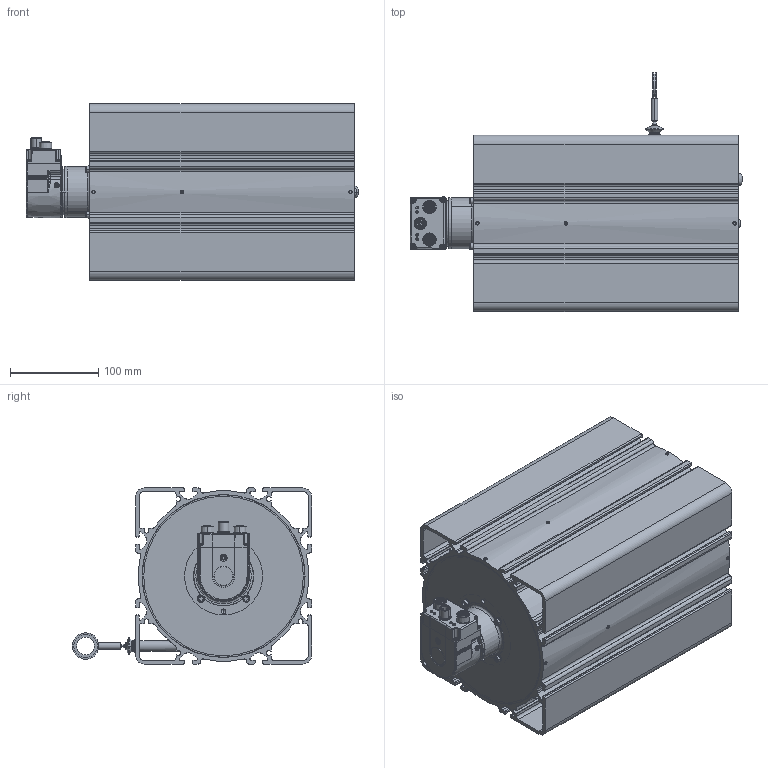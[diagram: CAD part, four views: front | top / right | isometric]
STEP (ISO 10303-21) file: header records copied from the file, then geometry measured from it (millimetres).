
FILE_DESCRIPTION((''),'2;1');
FILE_NAME('WDS-40000-P200-BH-PN_02_ASM','2024-05-28T13:37:20',('15000597'),(''),'CREO PARAMETRIC BY PTC INC, 2022164','CREO PARAMETRIC BY PTC INC, 2022164','');
FILE_SCHEMA(('AUTOMOTIVE_DESIGN { 1 0 10303 214 1 1 1 1 }'));
Products named in the file (34): TELESO_SENZORU_40M_P200_AF0; HRIDEL_MOTORU_30-40M_P200_AF0; BOCNICE_VNEJSI_P200_AF0; LOZISKO_6000_10X26X8_AF1; PREDNI_STENA_P200_DIRA_S_POJIST_AF0; SROUB_ISO7380_COC_HEX_C_M5X10_AF0; TRUBKA_PRUCHODKY_P200_AF0; PRUCHODKA_P200; GUMOVY_VLNOVEC; STIRATKO_LANKO_FORMA_0I8; DUTY_NYT_A_3X10; GP_7I5X2I0X25_EXT_EPDM60; LANKO_7X7_0I63_0I8_AF0; OKO_LANKA_TRE; CU_HULSE_2X1I4X5_AF0; SPOJKA_GS5_PR6_2I1_AF0; KOLIK_PRUZNY_2X8_AF0; SROUB_ISO4026_STAV_HEX_M4X4; PRIRUBA_SYNCHRO_P96_P200_AF0; PODLOZKA_M4_VEJIROVA_AF1; PODLOZKA_M4_VEJIROVA_AF3; PODLOZKA_M4_VEJIROVA_AF4; PODLOZKA_M4_VEJIROVA_AF5; PODLOZKA_M4_VEJIROVA_AF6; SROUB_ISO4762_VALC_HEX_M4X6_AF0; SROUB_ISO4762_VALC_HEX_M4X6_AF1; SROUB_ISO4762_VALC_HEX_M4X6_AF2; SROUB_ISO4762_VALC_HEX_M4X6_AF3; SPOJKA_KRIZ_AF0; SPOJKA_GS5_PR6_AF0; SROUB_ISO4029_STAV_HEX_M3X3_AF0; SROUB_ISO7380_COC_HEX_M8X8_AF0; BAU_SYNCHRO_PN_EAL580-SV6I4WPT_AF0; WDS-40000-P200-BH-PN_02_ASM
Assembly tree (44 placements, depth 2):
  WDS-40000-P200-BH-PN_02_ASM
    TELESO_SENZORU_40M_P200_AF0
    HRIDEL_MOTORU_30-40M_P200_AF0
    BOCNICE_VNEJSI_P200_AF0
    LOZISKO_6000_10X26X8_AF1
    PREDNI_STENA_P200_DIRA_S_POJIST_AF0
    SROUB_ISO7380_COC_HEX_C_M5X10_AF0
    TRUBKA_PRUCHODKY_P200_AF0
    PRUCHODKA_P200
    GUMOVY_VLNOVEC
    STIRATKO_LANKO_FORMA_0I8
    DUTY_NYT_A_3X10
    GP_7I5X2I0X25_EXT_EPDM60
    LANKO_7X7_0I63_0I8_AF0
    OKO_LANKA_TRE
    CU_HULSE_2X1I4X5_AF0
    SPOJKA_GS5_PR6_2I1_AF0
    KOLIK_PRUZNY_2X8_AF0
    SROUB_ISO4026_STAV_HEX_M4X4  x12
    PRIRUBA_SYNCHRO_P96_P200_AF0
    PODLOZKA_M4_VEJIROVA_AF1
    PODLOZKA_M4_VEJIROVA_AF3
    PODLOZKA_M4_VEJIROVA_AF4
    PODLOZKA_M4_VEJIROVA_AF5
    PODLOZKA_M4_VEJIROVA_AF6
    SROUB_ISO4762_VALC_HEX_M4X6_AF0
    SROUB_ISO4762_VALC_HEX_M4X6_AF1
    SROUB_ISO4762_VALC_HEX_M4X6_AF2
    SROUB_ISO4762_VALC_HEX_M4X6_AF3
    SPOJKA_KRIZ_AF0
    SPOJKA_GS5_PR6_AF0
    SROUB_ISO4029_STAV_HEX_M3X3_AF0
    SROUB_ISO7380_COC_HEX_M8X8_AF0
    BAU_SYNCHRO_PN_EAL580-SV6I4WPT_AF0
Bounding box: 377 x 271.7 x 200 mm (x, y, z)
Volume: 1885898 mm3; surface area: 905397.1 mm2
Topology: 36 solids, 73 shells, 2528 faces, 6645 edges, 4247 vertices
Faces by surface type: plane 1195, cylinder 745, cone 267, torus 189, bspline 78, sphere 34, revolution 20
Entity records: 114009 total; most frequent: CARTESIAN_POINT 33539, ORIENTED_EDGE 12206, DIRECTION 12186, EDGE_CURVE 6173, AXIS2_PLACEMENT_3D 4547, PRESENTATION_STYLE_ASSIGNMENT 4215, STYLED_ITEM 4215, VERTEX_POINT 3983
